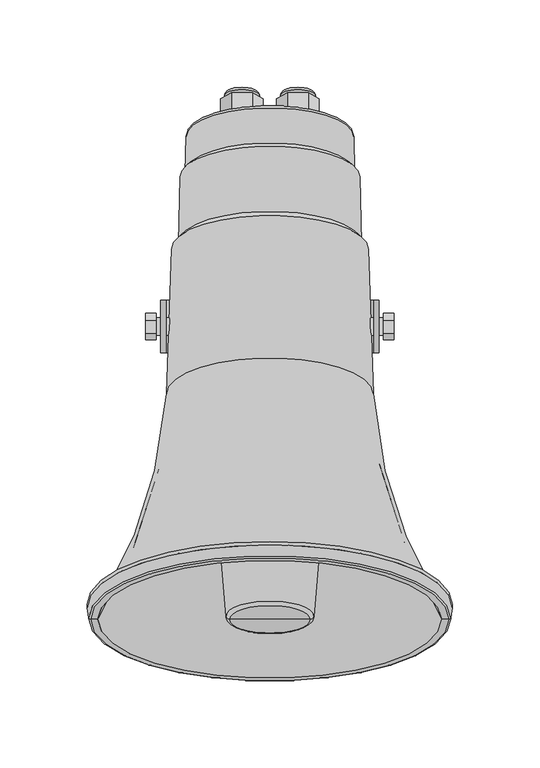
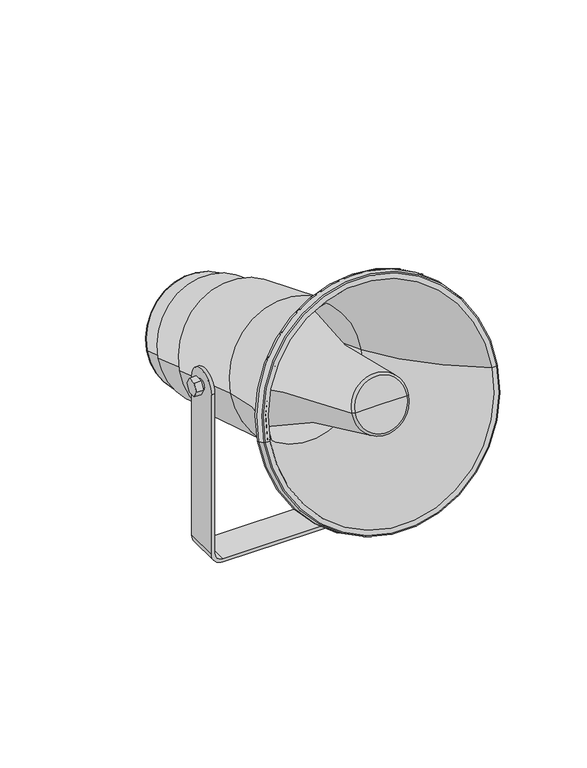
"""IFC4 building model written with IfcOpenShell, lengths in millimetres: proxy geometry, DK 15T-EN54-PG : DK 15/T-EN54-PG."""

from ifc_helpers import new_model, si_unit, point, frame, origin, place, context, project, spatial, polyline, circle_curve, ellipse_curve, trimmed, source, transform, mapped, element, save
from ifc_brep_helpers import plane_surface, cylinder_surface, revolved_surface, advanced_brep


def communication_devices_c37ef485(model_context):
    return source(origin(), model_context, "Body", "AdvancedBrep", [
        advanced_brep(
        [(-22.0879504, 117.4331703, 129.3723922), (-9.9635947, 117.4331703, 129.3723922), (-3.9014169, 113.8419588, 119.5056197), (-9.9635947, 110.2507473, 109.6388471), (-22.0879504, 110.2507473, 109.6388471), (-28.1501282, 113.8419588, 119.5056197), (-25.0257726, 113.8419588, 119.5056197), (-7.0257726, 113.8419588, 119.5056197), (-22.0879504, 114.1442461, 130.5694627), (-28.1501282, 110.5530346, 120.7026902), (-22.0879504, 106.9618231, 110.8359176), (-9.9635947, 106.9618231, 110.8359176), (-3.9014169, 110.5530346, 120.7026902), (-9.9635947, 114.1442461, 130.5694627), (-7.0257726, 120.8896535, 116.9404686), (-25.0257726, 120.8896535, 116.9404686), (-3.9014169, 130.2865797, 113.5202671), (-9.9635947, 126.6953682, 103.6534946), (-22.0879504, 126.6953682, 103.6534946), (-28.1501282, 130.2865797, 113.5202671), (-22.0879504, 133.8777912, 123.3870397), (-9.9635947, 133.8777912, 123.3870397), (-26.0257726, 130.2865797, 113.5202671), (-6.0257726, 130.2865797, 113.5202671), (-3.9014169, 120.8896535, 116.9404686), (-9.9635947, 124.480865, 126.8072411), (-22.0879504, 124.480865, 126.8072411), (-28.1501282, 120.8896535, 116.9404686), (-22.0879504, 117.298442, 107.0736961), (-9.9635947, 117.298442, 107.0736961), (-6.0257726, 132.1659649, 112.8362269), (-26.0257726, 132.1659649, 112.8362269), (-24.0257726, 134.0453502, 112.1521866), (-8.0257726, 134.0453502, 112.1521866), (-16.0257726, 134.0453502, 112.1521866)],
        [
            (0, 1),
            (1, 2),
            (2, 3),
            (3, 4),
            (4, 5),
            (5, 0),
            (6, 7, circle_curve(frame((-16.0257726, 113.8419588, 119.5056197), z_axis=(0.0, -0.9396926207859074, 0.34202014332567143), x_axis=(-1.0, 0.0, 0.0)), 9.0)),
            (7, 6, circle_curve(frame((-16.0257726, 113.8419588, 119.5056197), z_axis=(0.0, -0.9396926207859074, 0.34202014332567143), x_axis=(-1.0, 0.0, 0.0)), 9.0)),
            (8, 9),
            (9, 10),
            (10, 11),
            (11, 12),
            (12, 13),
            (13, 8),
            (0, 8),
            (13, 1),
            (12, 2),
            (11, 3),
            (10, 4),
            (9, 5),
            (14, 7),
            (6, 15),
            (15, 14, circle_curve(frame((-16.0257726, 120.8896535, 116.9404686), z_axis=(0.0, -0.9396926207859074, 0.34202014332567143), x_axis=(-1.0, 0.0, 0.0)), 9.0)),
            (14, 15, circle_curve(frame((-16.0257726, 120.8896535, 116.9404686), z_axis=(0.0, -0.9396926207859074, 0.34202014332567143), x_axis=(-1.0, 0.0, 0.0)), 9.0)),
            (16, 17),
            (17, 18),
            (18, 19),
            (19, 20),
            (20, 21),
            (21, 16),
            (22, 23, circle_curve(frame((-16.0257726, 130.2865797, 113.5202671), z_axis=(0.0, -0.9396926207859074, 0.34202014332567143), x_axis=(-1.0, 0.0, 0.0)), 10.0)),
            (23, 22, circle_curve(frame((-16.0257726, 130.2865797, 113.5202671), z_axis=(0.0, -0.9396926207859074, 0.34202014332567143), x_axis=(-1.0, 0.0, 0.0)), 10.0)),
            (24, 25),
            (25, 26),
            (26, 27),
            (27, 28),
            (28, 29),
            (29, 24),
            (16, 24),
            (29, 17),
            (28, 18),
            (27, 19),
            (26, 20),
            (25, 21),
            (30, 23),
            (22, 31),
            (31, 30, circle_curve(frame((-16.0257726, 132.1659649, 112.8362269), z_axis=(0.0, -0.9396926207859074, 0.34202014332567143), x_axis=(-1.0, 0.0, 0.0)), 10.0)),
            (30, 31, circle_curve(frame((-16.0257726, 132.1659649, 112.8362269), z_axis=(0.0, -0.9396926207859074, 0.34202014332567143), x_axis=(-1.0, 0.0, 0.0)), 10.0)),
            (32, 33, circle_curve(frame((-16.0257726, 134.0453502, 112.1521866), z_axis=(0.0, 0.9396926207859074, -0.34202014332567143), x_axis=(1.0, 0.0, 0.0)), 8.0)),
            (33, 34),
            (34, 32),
            (33, 32, circle_curve(frame((-16.0257726, 134.0453502, 112.1521866), z_axis=(0.0, 0.9396926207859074, -0.34202014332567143), x_axis=(1.0, 0.0, 0.0)), 8.0)),
            (32, 31, circle_curve(frame((-24.0257726, 132.1659649, 112.8362269), z_axis=(0.0, 0.34202014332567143, 0.9396926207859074), x_axis=(1.0, 0.0, 0.0)), 2.0)),
            (30, 33, circle_curve(frame((-8.0257726, 132.1659649, 112.8362269), z_axis=(0.0, 0.34202014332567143, 0.9396926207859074), x_axis=(-1.0, 0.0, 0.0)), 2.0)),
        ],
        [
            plane_surface(frame((-22.0879504, 117.4331703, 129.3723922), z_axis=(0.0, 0.9396926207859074, -0.34202014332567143), x_axis=(1.0, 0.0, 0.0))),
            plane_surface(frame((-22.0879504, 114.1442461, 130.5694627), z_axis=(0.0, -0.9396926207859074, 0.34202014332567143), x_axis=(-1.0, 0.0, 0.0))),
            plane_surface(frame((-22.0879504, 117.4331703, 129.3723922), z_axis=(0.0, 0.34202014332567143, 0.9396926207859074), x_axis=(0.0, -0.9396926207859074, 0.34202014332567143))),
            plane_surface(frame((-9.9635947, 117.4331703, 129.3723922), z_axis=(0.8660254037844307, 0.17101007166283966, 0.4698463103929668), x_axis=(0.0, -0.9396926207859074, 0.34202014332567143))),
            plane_surface(frame((-3.9014169, 113.8419588, 119.5056197), z_axis=(0.8660254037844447, -0.1710100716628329, -0.4698463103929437), x_axis=(0.0, -0.9396926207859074, 0.34202014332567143))),
            plane_surface(frame((-9.9635947, 110.2507473, 109.6388471), z_axis=(0.0, -0.34202014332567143, -0.9396926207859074), x_axis=(0.0, -0.9396926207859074, 0.34202014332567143))),
            plane_surface(frame((-22.0879504, 110.2507473, 109.6388471), z_axis=(-0.8660254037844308, -0.1710100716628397, -0.4698463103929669), x_axis=(0.0, -0.9396926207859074, 0.34202014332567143))),
            plane_surface(frame((-28.1501282, 113.8419588, 119.5056197), z_axis=(-0.8660254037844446, 0.17101007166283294, 0.46984631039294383), x_axis=(0.0, -0.9396926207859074, 0.34202014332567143))),
            cylinder_surface(frame((-16.0257726, 110.5530346, 120.7026902), z_axis=(0.0, 0.9396926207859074, -0.34202014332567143), x_axis=(-1.0, 0.0, 0.0)), 9.0),
            plane_surface(frame((-3.9014169, 130.2865797, 113.5202671), z_axis=(0.0, 0.9396926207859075, -0.34202014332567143), x_axis=(-0.49999999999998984, -0.2961981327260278, -0.8137976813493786))),
            plane_surface(frame((-3.9014169, 120.8896535, 116.9404686), z_axis=(0.0, -0.9396926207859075, 0.34202014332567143), x_axis=(0.49999999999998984, 0.2961981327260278, 0.8137976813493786))),
            plane_surface(frame((-3.9014169, 130.2865797, 113.5202671), z_axis=(0.8660254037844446, -0.17101007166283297, -0.4698463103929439), x_axis=(0.0, -0.9396926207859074, 0.34202014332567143))),
            plane_surface(frame((-9.9635947, 126.6953682, 103.6534946), z_axis=(0.0, -0.34202014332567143, -0.9396926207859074), x_axis=(0.0, -0.9396926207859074, 0.34202014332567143))),
            plane_surface(frame((-22.0879504, 126.6953682, 103.6534946), z_axis=(-0.8660254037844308, -0.17101007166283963, -0.4698463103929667), x_axis=(0.0, -0.9396926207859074, 0.34202014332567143))),
            plane_surface(frame((-28.1501282, 130.2865797, 113.5202671), z_axis=(-0.8660254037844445, 0.1710100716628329, 0.4698463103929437), x_axis=(0.0, -0.9396926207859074, 0.34202014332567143))),
            plane_surface(frame((-22.0879504, 133.8777912, 123.3870397), z_axis=(0.0, 0.34202014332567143, 0.9396926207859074), x_axis=(0.0, -0.9396926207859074, 0.34202014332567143))),
            plane_surface(frame((-9.9635947, 133.8777912, 123.3870397), z_axis=(0.8660254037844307, 0.1710100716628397, 0.4698463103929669), x_axis=(0.0, -0.9396926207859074, 0.34202014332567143))),
            cylinder_surface(frame((-16.0257726, 120.8896535, 116.9404686), z_axis=(0.0, 0.9396926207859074, -0.34202014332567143), x_axis=(-1.0, 0.0, 0.0)), 10.0),
            plane_surface(frame((-16.0257726, 134.0453502, 112.1521866), z_axis=(0.0, 0.9396926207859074, -0.34202014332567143), x_axis=(1.0, 0.0, 0.0))),
            revolved_surface(trimmed(ellipse_curve(frame((-8.0257726, 132.1659649, 112.8362269), z_axis=(0.0, -0.34202014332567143, -0.9396926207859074), x_axis=(-1.0, 0.0, 0.0)), 2.0, 2.0), [point((-8.0257726, 134.0453502, 112.1521866))], [point((-6.0257726, 132.1659649, 112.8362269))], True, "CARTESIAN"), (-16.0257726, 2187.9456097, -635.406372), (0.0, -0.9396926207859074, 0.34202014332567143)),
        ],
        [
            (0, [[1, 2, 3, 4, 5, 6], [7, 8]]),
            (1, [[9, 10, 11, 12, 13, 14]]),
            (2, [[-1, 15, -14, 16]]),
            (3, [[-2, -16, -13, 17]]),
            (4, [[-3, -17, -12, 18]]),
            (5, [[-4, -18, -11, 19]]),
            (6, [[-5, -19, -10, 20]]),
            (7, [[-6, -20, -9, -15]]),
            (8, [[21, -7, 22, 23]]),
            (8, [[-21, 24, -22, -8]]),
            (9, [[25, 26, 27, 28, 29, 30], [31, 32]]),
            (10, [[33, 34, 35, 36, 37, 38], [-23, -24]]),
            (11, [[-25, 39, -38, 40]]),
            (12, [[-26, -40, -37, 41]]),
            (13, [[-27, -41, -36, 42]]),
            (14, [[-28, -42, -35, 43]]),
            (15, [[-29, -43, -34, 44]]),
            (16, [[-30, -44, -33, -39]]),
            (17, [[45, -31, 46, 47]]),
            (17, [[-45, 48, -46, -32]]),
            (18, [[49, 50, 51]]),
            (18, [[-50, 52, -51]]),
            (19, [[-49, 53, -48, 54]]),
            (19, [[-52, -54, -47, -53]]),
        ],
    ),
        advanced_brep(
        [(9.9635947, 117.4331703, 129.3723922), (22.0879504, 117.4331703, 129.3723922), (28.1501282, 113.8419588, 119.5056197), (22.0879504, 110.2507473, 109.6388471), (9.9635947, 110.2507473, 109.6388471), (3.9014169, 113.8419588, 119.5056197), (7.0257726, 113.8419588, 119.5056197), (25.0257726, 113.8419588, 119.5056197), (9.9635947, 114.1442461, 130.5694627), (3.9014169, 110.5530346, 120.7026902), (9.9635947, 106.9618231, 110.8359176), (22.0879504, 106.9618231, 110.8359176), (28.1501282, 110.5530346, 120.7026902), (22.0879504, 114.1442461, 130.5694627), (25.0257726, 120.8896535, 116.9404686), (7.0257726, 120.8896535, 116.9404686), (28.1501282, 130.2865797, 113.5202671), (22.0879504, 126.6953682, 103.6534946), (9.9635947, 126.6953682, 103.6534946), (3.9014169, 130.2865797, 113.5202671), (9.9635947, 133.8777912, 123.3870397), (22.0879504, 133.8777912, 123.3870397), (6.0257726, 130.2865797, 113.5202671), (26.0257726, 130.2865797, 113.5202671), (28.1501282, 120.8896535, 116.9404686), (22.0879504, 124.480865, 126.8072411), (9.9635947, 124.480865, 126.8072411), (3.9014169, 120.8896535, 116.9404686), (9.9635947, 117.298442, 107.0736961), (22.0879504, 117.298442, 107.0736961), (26.0257726, 132.1659649, 112.8362269), (6.0257726, 132.1659649, 112.8362269), (8.0257726, 134.0453502, 112.1521866), (24.0257726, 134.0453502, 112.1521866), (16.0257726, 134.0453502, 112.1521866)],
        [
            (0, 1),
            (1, 2),
            (2, 3),
            (3, 4),
            (4, 5),
            (5, 0),
            (6, 7, circle_curve(frame((16.0257726, 113.8419588, 119.5056197), z_axis=(0.0, -0.9396926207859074, 0.34202014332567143), x_axis=(-1.0, 0.0, 0.0)), 9.0)),
            (7, 6, circle_curve(frame((16.0257726, 113.8419588, 119.5056197), z_axis=(0.0, -0.9396926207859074, 0.34202014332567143), x_axis=(-1.0, 0.0, 0.0)), 9.0)),
            (8, 9),
            (9, 10),
            (10, 11),
            (11, 12),
            (12, 13),
            (13, 8),
            (0, 8),
            (13, 1),
            (12, 2),
            (11, 3),
            (10, 4),
            (9, 5),
            (14, 7),
            (6, 15),
            (15, 14, circle_curve(frame((16.0257726, 120.8896535, 116.9404686), z_axis=(0.0, -0.9396926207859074, 0.34202014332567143), x_axis=(-1.0, 0.0, 0.0)), 9.0)),
            (14, 15, circle_curve(frame((16.0257726, 120.8896535, 116.9404686), z_axis=(0.0, -0.9396926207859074, 0.34202014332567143), x_axis=(-1.0, 0.0, 0.0)), 9.0)),
            (16, 17),
            (17, 18),
            (18, 19),
            (19, 20),
            (20, 21),
            (21, 16),
            (22, 23, circle_curve(frame((16.0257726, 130.2865797, 113.5202671), z_axis=(0.0, -0.9396926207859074, 0.34202014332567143), x_axis=(-1.0, 0.0, 0.0)), 10.0)),
            (23, 22, circle_curve(frame((16.0257726, 130.2865797, 113.5202671), z_axis=(0.0, -0.9396926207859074, 0.34202014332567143), x_axis=(-1.0, 0.0, 0.0)), 10.0)),
            (24, 25),
            (25, 26),
            (26, 27),
            (27, 28),
            (28, 29),
            (29, 24),
            (16, 24),
            (29, 17),
            (28, 18),
            (27, 19),
            (26, 20),
            (25, 21),
            (30, 23),
            (22, 31),
            (31, 30, circle_curve(frame((16.0257726, 132.1659649, 112.8362269), z_axis=(0.0, -0.9396926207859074, 0.34202014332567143), x_axis=(-1.0, 0.0, 0.0)), 10.0)),
            (30, 31, circle_curve(frame((16.0257726, 132.1659649, 112.8362269), z_axis=(0.0, -0.9396926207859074, 0.34202014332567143), x_axis=(-1.0, 0.0, 0.0)), 10.0)),
            (32, 33, circle_curve(frame((16.0257726, 134.0453502, 112.1521866), z_axis=(0.0, 0.9396926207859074, -0.34202014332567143), x_axis=(1.0, 0.0, 0.0)), 8.0)),
            (33, 34),
            (34, 32),
            (33, 32, circle_curve(frame((16.0257726, 134.0453502, 112.1521866), z_axis=(0.0, 0.9396926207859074, -0.34202014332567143), x_axis=(1.0, 0.0, 0.0)), 8.0)),
            (32, 31, circle_curve(frame((8.0257726, 132.1659649, 112.8362269), z_axis=(0.0, 0.34202014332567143, 0.9396926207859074), x_axis=(1.0, 0.0, 0.0)), 2.0)),
            (30, 33, circle_curve(frame((24.0257726, 132.1659649, 112.8362269), z_axis=(0.0, 0.34202014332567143, 0.9396926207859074), x_axis=(-1.0, 0.0, 0.0)), 2.0)),
        ],
        [
            plane_surface(frame((9.9635947, 117.4331703, 129.3723922), z_axis=(0.0, 0.9396926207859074, -0.34202014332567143), x_axis=(1.0, 0.0, 0.0))),
            plane_surface(frame((9.9635947, 114.1442461, 130.5694627), z_axis=(0.0, -0.9396926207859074, 0.34202014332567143), x_axis=(-1.0, 0.0, 0.0))),
            plane_surface(frame((9.9635947, 117.4331703, 129.3723922), z_axis=(0.0, 0.34202014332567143, 0.9396926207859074), x_axis=(0.0, -0.9396926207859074, 0.34202014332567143))),
            plane_surface(frame((22.0879504, 117.4331703, 129.3723922), z_axis=(0.8660254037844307, 0.17101007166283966, 0.4698463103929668), x_axis=(0.0, -0.9396926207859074, 0.34202014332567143))),
            plane_surface(frame((28.1501282, 113.8419588, 119.5056197), z_axis=(0.8660254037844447, -0.1710100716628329, -0.4698463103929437), x_axis=(0.0, -0.9396926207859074, 0.34202014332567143))),
            plane_surface(frame((22.0879504, 110.2507473, 109.6388471), z_axis=(0.0, -0.34202014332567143, -0.9396926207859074), x_axis=(0.0, -0.9396926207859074, 0.34202014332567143))),
            plane_surface(frame((9.9635947, 110.2507473, 109.6388471), z_axis=(-0.8660254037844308, -0.1710100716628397, -0.4698463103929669), x_axis=(0.0, -0.9396926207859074, 0.34202014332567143))),
            plane_surface(frame((3.9014169, 113.8419588, 119.5056197), z_axis=(-0.8660254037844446, 0.17101007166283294, 0.46984631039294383), x_axis=(0.0, -0.9396926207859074, 0.34202014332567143))),
            cylinder_surface(frame((16.0257726, 110.5530346, 120.7026902), z_axis=(0.0, 0.9396926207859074, -0.34202014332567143), x_axis=(-1.0, 0.0, 0.0)), 9.0),
            plane_surface(frame((28.1501282, 130.2865797, 113.5202671), z_axis=(0.0, 0.9396926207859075, -0.34202014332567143), x_axis=(-0.49999999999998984, -0.2961981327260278, -0.8137976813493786))),
            plane_surface(frame((28.1501282, 120.8896535, 116.9404686), z_axis=(0.0, -0.9396926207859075, 0.34202014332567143), x_axis=(0.49999999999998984, 0.2961981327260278, 0.8137976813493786))),
            plane_surface(frame((28.1501282, 130.2865797, 113.5202671), z_axis=(0.8660254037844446, -0.17101007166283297, -0.4698463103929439), x_axis=(0.0, -0.9396926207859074, 0.34202014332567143))),
            plane_surface(frame((22.0879504, 126.6953682, 103.6534946), z_axis=(0.0, -0.34202014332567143, -0.9396926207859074), x_axis=(0.0, -0.9396926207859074, 0.34202014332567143))),
            plane_surface(frame((9.9635947, 126.6953682, 103.6534946), z_axis=(-0.8660254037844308, -0.17101007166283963, -0.4698463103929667), x_axis=(0.0, -0.9396926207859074, 0.34202014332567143))),
            plane_surface(frame((3.9014169, 130.2865797, 113.5202671), z_axis=(-0.8660254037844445, 0.1710100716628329, 0.4698463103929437), x_axis=(0.0, -0.9396926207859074, 0.34202014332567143))),
            plane_surface(frame((9.9635947, 133.8777912, 123.3870397), z_axis=(0.0, 0.34202014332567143, 0.9396926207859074), x_axis=(0.0, -0.9396926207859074, 0.34202014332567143))),
            plane_surface(frame((22.0879504, 133.8777912, 123.3870397), z_axis=(0.8660254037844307, 0.1710100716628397, 0.4698463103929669), x_axis=(0.0, -0.9396926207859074, 0.34202014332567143))),
            cylinder_surface(frame((16.0257726, 120.8896535, 116.9404686), z_axis=(0.0, 0.9396926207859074, -0.34202014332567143), x_axis=(-1.0, 0.0, 0.0)), 10.0),
            plane_surface(frame((16.0257726, 134.0453502, 112.1521866), z_axis=(0.0, 0.9396926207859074, -0.34202014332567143), x_axis=(1.0, 0.0, 0.0))),
            revolved_surface(trimmed(ellipse_curve(frame((24.0257726, 132.1659649, 112.8362269), z_axis=(0.0, -0.34202014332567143, -0.9396926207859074), x_axis=(-1.0, 0.0, 0.0)), 2.0, 2.0), [point((24.0257726, 134.0453502, 112.1521866))], [point((26.0257726, 132.1659649, 112.8362269))], True, "CARTESIAN"), (16.0257726, 2187.9456097, -635.406372), (0.0, -0.9396926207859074, 0.34202014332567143)),
        ],
        [
            (0, [[1, 2, 3, 4, 5, 6], [7, 8]]),
            (1, [[9, 10, 11, 12, 13, 14]]),
            (2, [[-1, 15, -14, 16]]),
            (3, [[-2, -16, -13, 17]]),
            (4, [[-3, -17, -12, 18]]),
            (5, [[-4, -18, -11, 19]]),
            (6, [[-5, -19, -10, 20]]),
            (7, [[-6, -20, -9, -15]]),
            (8, [[21, -7, 22, 23]]),
            (8, [[-21, 24, -22, -8]]),
            (9, [[25, 26, 27, 28, 29, 30], [31, 32]]),
            (10, [[33, 34, 35, 36, 37, 38], [-23, -24]]),
            (11, [[-25, 39, -38, 40]]),
            (12, [[-26, -40, -37, 41]]),
            (13, [[-27, -41, -36, 42]]),
            (14, [[-28, -42, -35, 43]]),
            (15, [[-29, -43, -34, 44]]),
            (16, [[-30, -44, -33, -39]]),
            (17, [[45, -31, 46, 47]]),
            (17, [[-45, 48, -46, -32]]),
            (18, [[49, 50, 51]]),
            (18, [[-50, 52, -51]]),
            (19, [[-49, 53, -48, 54]]),
            (19, [[-52, -54, -47, -53]]),
        ],
    ),
        advanced_brep(
        [(-62.5, -15.0, 10.5), (-52.0, -15.0, 0.0), (52.0, -15.0, 0.0), (62.5, -15.0, 10.5), (62.5, -15.0, 159.9544424), (59.5, -15.0, 159.9544424), (59.5, -15.0, 10.5), (52.0, -15.0, 3.0), (-52.0, -15.0, 3.0), (-59.5, -15.0, 10.5), (-59.5, -15.0, 159.9544424), (-62.5, -15.0, 159.9544424), (-59.5, 15.0, 10.5), (-52.0, 15.0, 3.0), (52.0, 15.0, 3.0), (59.5, 15.0, 10.5), (59.5, 15.0, 159.9544424), (62.5, 15.0, 159.9544424), (62.5, 15.0, 10.5), (52.0, 15.0, 0.0), (-52.0, 15.0, 0.0), (-62.5, 15.0, 10.5), (-62.5, 15.0, 159.9544424), (-59.5, 15.0, 159.9544424), (62.5, 0.0, 174.9544424), (59.5, 0.0, 174.9544424), (-59.5, 0.0, 174.9544424), (-62.5, 0.0, 174.9544424)],
        [
            (0, 1, circle_curve(frame((-52.0, -15.0, 10.5), z_axis=(0.0, -1.0, 0.0), x_axis=(0.0, 0.0, 1.0)), 10.5)),
            (1, 2),
            (2, 3, circle_curve(frame((52.0, -15.0, 10.5), z_axis=(0.0, -1.0, 0.0), x_axis=(0.0, 0.0, 1.0)), 10.5)),
            (3, 4),
            (4, 5),
            (5, 6),
            (6, 7, circle_curve(frame((52.0, -15.0, 10.5), z_axis=(0.0, 1.0, 0.0), x_axis=(0.0, 0.0, 1.0)), 7.5)),
            (7, 8),
            (8, 9, circle_curve(frame((-52.0, -15.0, 10.5), z_axis=(0.0, 1.0, 0.0), x_axis=(0.0, 0.0, 1.0)), 7.5)),
            (9, 10),
            (10, 11),
            (11, 0),
            (12, 13, circle_curve(frame((-52.0, 15.0, 10.5), z_axis=(0.0, -1.0, 0.0), x_axis=(0.0, 0.0, 1.0)), 7.5)),
            (13, 14),
            (14, 15, circle_curve(frame((52.0, 15.0, 10.5), z_axis=(0.0, -1.0, 0.0), x_axis=(0.0, 0.0, 1.0)), 7.5)),
            (15, 16),
            (16, 17),
            (17, 18),
            (18, 19, circle_curve(frame((52.0, 15.0, 10.5), z_axis=(0.0, 1.0, 0.0), x_axis=(0.0, 0.0, 1.0)), 10.5)),
            (19, 20),
            (20, 21, circle_curve(frame((-52.0, 15.0, 10.5), z_axis=(0.0, 1.0, 0.0), x_axis=(0.0, 0.0, 1.0)), 10.5)),
            (21, 22),
            (22, 23),
            (23, 12),
            (0, 21),
            (20, 1),
            (19, 2),
            (18, 3),
            (17, 24, circle_curve(frame((62.5, 0.0, 159.9544424), z_axis=(1.0, 0.0, 0.0), x_axis=(0.0, 1.0, 0.0)), 15.0)),
            (24, 4, circle_curve(frame((62.5, 0.0, 159.9544424), z_axis=(1.0, 0.0, 0.0), x_axis=(0.0, 1.0, 0.0)), 15.0)),
            (15, 6),
            (5, 25, circle_curve(frame((59.5, 0.0, 159.9544424), z_axis=(-1.0, 0.0, 0.0), x_axis=(0.0, 1.0, 0.0)), 15.0)),
            (25, 16, circle_curve(frame((59.5, 0.0, 159.9544424), z_axis=(-1.0, 0.0, 0.0), x_axis=(0.0, 1.0, 0.0)), 15.0)),
            (14, 7),
            (13, 8),
            (12, 9),
            (23, 26, circle_curve(frame((-59.5, 0.0, 159.9544424), z_axis=(1.0, 0.0, 0.0), x_axis=(0.0, 1.0, 0.0)), 15.0)),
            (26, 10, circle_curve(frame((-59.5, 0.0, 159.9544424), z_axis=(1.0, 0.0, 0.0), x_axis=(0.0, 1.0, 0.0)), 15.0)),
            (11, 27, circle_curve(frame((-62.5, 0.0, 159.9544424), z_axis=(-1.0, 0.0, 0.0), x_axis=(0.0, 1.0, 0.0)), 15.0)),
            (27, 22, circle_curve(frame((-62.5, 0.0, 159.9544424), z_axis=(-1.0, 0.0, 0.0), x_axis=(0.0, 1.0, 0.0)), 15.0)),
        ],
        [
            plane_surface(frame((-52.0, -15.0, 21.0), z_axis=(0.0, -1.0, 0.0), x_axis=(-1.0, 0.0, 0.0))),
            plane_surface(frame((-52.0, 15.0, 21.0), z_axis=(0.0, 1.0, 0.0), x_axis=(1.0, 0.0, 0.0))),
            cylinder_surface(frame((-52.0, 15.0, 10.5), z_axis=(0.0, -1.0, 0.0), x_axis=(0.0, 0.0, 1.0)), 10.5),
            plane_surface(frame((-52.0, -15.0, 0.0), z_axis=(0.0, 0.0, -1.0), x_axis=(0.0, 1.0, 0.0))),
            cylinder_surface(frame((52.0, 15.0, 10.5), z_axis=(0.0, -1.0, 0.0), x_axis=(0.0, 0.0, 1.0)), 10.5),
            plane_surface(frame((62.5, -15.0, 10.5), z_axis=(1.0, 0.0, 0.0), x_axis=(0.0, 1.0, 0.0))),
            plane_surface(frame((59.5, -15.0, 174.9544424), z_axis=(-1.0, 0.0, 0.0), x_axis=(0.0, 1.0, 0.0))),
            revolved_surface(polyline([(52.0, 15.0, 18.0), (52.0, -15.0, 18.0)]), (52.0, 15.0, 10.5), (0.0, 1.0, 0.0)),
            plane_surface(frame((52.0, -15.0, 3.0), z_axis=(0.0, 0.0, 1.0), x_axis=(0.0, 1.0, 0.0))),
            revolved_surface(polyline([(-52.0, 15.0, 18.0), (-52.0, -15.0, 18.0)]), (-52.0, 15.0, 10.5), (0.0, 1.0, 0.0)),
            plane_surface(frame((-59.5, -15.0, 10.5), z_axis=(1.0, 0.0, 0.0), x_axis=(0.0, 1.0, 0.0))),
            plane_surface(frame((-62.5, -15.0, 174.9544424), z_axis=(-1.0, 0.0, 0.0), x_axis=(0.0, 1.0, 0.0))),
            cylinder_surface(frame((-90.0, 0.0, 159.9544424), z_axis=(-1.0, 0.0, 0.0), x_axis=(0.0, 1.0, 0.0)), 15.0),
        ],
        [
            (0, [[1, 2, 3, 4, 5, 6, 7, 8, 9, 10, 11, 12]]),
            (1, [[13, 14, 15, 16, 17, 18, 19, 20, 21, 22, 23, 24]]),
            (2, [[-1, 25, -21, 26]]),
            (3, [[-2, -26, -20, 27]]),
            (4, [[-3, -27, -19, 28]]),
            (5, [[-28, -18, 29, 30, -4]]),
            (6, [[31, -6, 32, 33, -16]]),
            (7, [[-7, -31, -15, 34]]),
            (8, [[-8, -34, -14, 35]]),
            (9, [[-9, -35, -13, 36]]),
            (10, [[-36, -24, 37, 38, -10]]),
            (11, [[-25, -12, 39, 40, -22]]),
            (12, [[-5, -30, -29, -17, -33, -32]]),
            (12, [[-11, -38, -37, -23, -40, -39]]),
        ],
    ),
        advanced_brep(
        [(59.1795336, -38.3559546, 174.9011298), (-59.1795336, -38.3559546, 174.9011298), (-56.4200611, 44.2881689, 144.8211289), (56.4200611, 44.2881689, 144.8211289), (99.6768224, -165.7165959, 221.2566123), (-99.6768224, -165.7165959, 221.2566123), (101.8860785, -165.7165959, 221.2566123), (-101.8860785, -165.7165959, 221.2566123), (102.5966569, -160.672511, 219.4207156), (-102.5966569, -160.672511, 219.4207156), (102.5966569, -158.9075831, 218.7783343), (-102.5966569, -158.9075831, 218.7783343), (104.5966569, -158.9075831, 218.7783343), (-104.5966569, -158.9075831, 218.7783343), (104.5966569, -160.7963653, 219.4657948), (-104.5966569, -160.7963653, 219.4657948), (103.753776, -166.7796072, 221.6435168), (-103.753776, -166.7796072, 221.6435168), (102.7624245, -167.5959811, 221.9406526), (-102.7624245, -167.5959811, 221.9406526), (98.5091569, -167.5959811, 221.9406526), (-98.5091569, -167.5959811, 221.9406526), (57.1816839, -38.4498299, 174.9352977), (-57.1816839, -38.4498299, 174.9352977), (55.3606727, 16.0880847, 155.0851201), (-55.3606727, 16.0880847, 155.0851201), (25.2067567, -165.7223734, 221.2587151), (-25.2067567, -165.7223734, 221.2587151), (23.2067662, -167.5959811, 221.9406526), (-23.2067662, -167.5959811, 221.9406526), (0.0, -167.5959811, 221.9406526), (46.0440231, 110.5530346, 120.7026902), (-46.0440231, 110.5530346, 120.7026902), (0.0, 110.5530346, 120.7026902), (48.0436024, 108.7121946, 121.3727011), (-48.0436024, 108.7121946, 121.3727011), (48.4857367, 88.4589668, 128.7442732), (-48.4857367, 88.4589668, 128.7442732), (51.5262814, 85.6613541, 129.762521), (-51.5262814, 85.6613541, 129.762521), (52.3233729, 48.0469393, 143.4530483), (-52.3233729, 48.0469393, 143.4530483)],
        [
            (0, 1, circle_curve(frame((0.0, -38.3559546, 174.9011298), z_axis=(0.0, 0.9396926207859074, -0.34202014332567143), x_axis=(-1.0, 0.0, 0.0)), 59.1795336)),
            (1, 2),
            (2, 3, circle_curve(frame((0.0, 44.2881689, 144.8211289), z_axis=(0.0, -0.9396926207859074, 0.34202014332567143), x_axis=(-1.0, 0.0, 0.0)), 56.4200611)),
            (3, 0),
            (1, 0, circle_curve(frame((0.0, -38.3559546, 174.9011298), z_axis=(0.0, 0.9396926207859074, -0.34202014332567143), x_axis=(-1.0, 0.0, 0.0)), 59.1795336)),
            (3, 2, circle_curve(frame((0.0, 44.2881689, 144.8211289), z_axis=(0.0, -0.9396926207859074, 0.34202014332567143), x_axis=(-1.0, 0.0, 0.0)), 56.4200611)),
            (4, 5, circle_curve(frame((0.0, -165.7165959, 221.2566123), z_axis=(0.0, 0.9396926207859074, -0.34202014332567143), x_axis=(-1.0, 0.0, 0.0)), 99.6768224)),
            (5, 1, circle_curve(frame((-380.0227562, -17.6360728, 167.3597096), z_axis=(0.0, 0.3420201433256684, 0.9396926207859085), x_axis=(0.0, -0.9396926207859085, 0.3420201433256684)), 321.6)),
            (0, 4, circle_curve(frame((380.0227562, -17.6360728, 167.3597096), z_axis=(0.0, 0.3420201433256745, 0.9396926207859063), x_axis=(0.0, -0.9396926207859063, 0.3420201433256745)), 321.6)),
            (5, 4, circle_curve(frame((0.0, -165.7165959, 221.2566123), z_axis=(0.0, 0.9396926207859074, -0.34202014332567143), x_axis=(-1.0, 0.0, 0.0)), 99.6768224)),
            (6, 7, circle_curve(frame((0.0, -165.7165959, 221.2566123), z_axis=(0.0, 0.9396926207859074, -0.34202014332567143), x_axis=(-1.0, 0.0, 0.0)), 101.8860785)),
            (7, 5),
            (4, 6),
            (7, 6, circle_curve(frame((0.0, -165.7165959, 221.2566123), z_axis=(0.0, 0.9396926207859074, -0.34202014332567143), x_axis=(-1.0, 0.0, 0.0)), 101.8860785)),
            (8, 9, circle_curve(frame((0.0, -160.672511, 219.4207156), z_axis=(0.0, 0.9396926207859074, -0.34202014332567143), x_axis=(-1.0, 0.0, 0.0)), 102.5966569)),
            (9, 7),
            (6, 8),
            (9, 8, circle_curve(frame((0.0, -160.672511, 219.4207156), z_axis=(0.0, 0.9396926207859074, -0.34202014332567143), x_axis=(-1.0, 0.0, 0.0)), 102.5966569)),
            (10, 11, circle_curve(frame((0.0, -158.9075831, 218.7783343), z_axis=(0.0, 0.9396926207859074, -0.34202014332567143), x_axis=(-1.0, 0.0, 0.0)), 102.5966569)),
            (11, 9),
            (8, 10),
            (11, 10, circle_curve(frame((0.0, -158.9075831, 218.7783343), z_axis=(0.0, 0.9396926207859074, -0.34202014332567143), x_axis=(-1.0, 0.0, 0.0)), 102.5966569)),
            (12, 13, circle_curve(frame((0.0, -158.9075831, 218.7783343), z_axis=(0.0, 0.9396926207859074, -0.34202014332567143), x_axis=(-1.0, 0.0, 0.0)), 104.5966569)),
            (13, 11),
            (10, 12),
            (13, 12, circle_curve(frame((0.0, -158.9075831, 218.7783343), z_axis=(0.0, 0.9396926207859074, -0.34202014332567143), x_axis=(-1.0, 0.0, 0.0)), 104.5966569)),
            (14, 15, circle_curve(frame((0.0, -160.7963653, 219.4657948), z_axis=(0.0, 0.9396926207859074, -0.34202014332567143), x_axis=(-1.0, 0.0, 0.0)), 104.5966569)),
            (15, 13),
            (12, 14),
            (15, 14, circle_curve(frame((0.0, -160.7963653, 219.4657948), z_axis=(0.0, 0.9396926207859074, -0.34202014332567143), x_axis=(-1.0, 0.0, 0.0)), 104.5966569)),
            (16, 17, circle_curve(frame((0.0, -166.7796072, 221.6435168), z_axis=(0.0, 0.9396926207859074, -0.34202014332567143), x_axis=(-1.0, 0.0, 0.0)), 103.753776)),
            (17, 15),
            (14, 16),
            (17, 16, circle_curve(frame((0.0, -166.7796072, 221.6435168), z_axis=(0.0, 0.9396926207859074, -0.34202014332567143), x_axis=(-1.0, 0.0, 0.0)), 103.753776)),
            (18, 19, circle_curve(frame((0.0, -167.5959811, 221.9406526), z_axis=(0.0, 0.9396926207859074, -0.34202014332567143), x_axis=(-1.0, 0.0, 0.0)), 102.7624245)),
            (19, 17, circle_curve(frame((-102.7624245, -166.6562885, 221.5986324), z_axis=(0.0, -0.34202014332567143, -0.9396926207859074), x_axis=(1.0, 0.0, 0.0)), 1.0)),
            (16, 18, circle_curve(frame((102.7624245, -166.6562885, 221.5986324), z_axis=(0.0, -0.34202014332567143, -0.9396926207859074), x_axis=(-1.0, 0.0, 0.0)), 1.0)),
            (19, 18, circle_curve(frame((0.0, -167.5959811, 221.9406526), z_axis=(0.0, 0.9396926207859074, -0.34202014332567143), x_axis=(-1.0, 0.0, 0.0)), 102.7624245)),
            (20, 21, circle_curve(frame((0.0, -167.5959811, 221.9406526), z_axis=(0.0, 0.9396926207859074, -0.34202014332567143), x_axis=(-1.0, 0.0, 0.0)), 98.5091569)),
            (21, 19),
            (18, 20),
            (21, 20, circle_curve(frame((0.0, -167.5959811, 221.9406526), z_axis=(0.0, 0.9396926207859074, -0.34202014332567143), x_axis=(-1.0, 0.0, 0.0)), 98.5091569)),
            (22, 23, circle_curve(frame((0.0, -38.4498299, 174.9352977), z_axis=(0.0, 0.9396926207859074, -0.34202014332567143), x_axis=(-1.0, 0.0, 0.0)), 57.1816839)),
            (23, 21, circle_curve(frame((-380.0227562, -17.6360728, 167.3597096), z_axis=(0.0, -0.3420201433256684, -0.9396926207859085), x_axis=(0.0, -0.9396926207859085, 0.3420201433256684)), 323.6)),
            (20, 22, circle_curve(frame((380.0227562, -17.6360728, 167.3597096), z_axis=(0.0, -0.3420201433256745, -0.9396926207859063), x_axis=(0.0, -0.9396926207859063, 0.3420201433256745)), 323.6)),
            (23, 22, circle_curve(frame((0.0, -38.4498299, 174.9352977), z_axis=(0.0, 0.9396926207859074, -0.34202014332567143), x_axis=(-1.0, 0.0, 0.0)), 57.1816839)),
            (24, 25, circle_curve(frame((0.0, 16.0880847, 155.0851201), z_axis=(0.0, 0.9396926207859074, -0.34202014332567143), x_axis=(-1.0, 0.0, 0.0)), 55.3606727)),
            (25, 23),
            (22, 24),
            (25, 24, circle_curve(frame((0.0, 16.0880847, 155.0851201), z_axis=(0.0, 0.9396926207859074, -0.34202014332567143), x_axis=(-1.0, 0.0, 0.0)), 55.3606727)),
            (26, 27, circle_curve(frame((0.0, -165.7223734, 221.2587151), z_axis=(0.0, 0.9396926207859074, -0.34202014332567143), x_axis=(-1.0, 0.0, 0.0)), 25.2067567)),
            (27, 25, circle_curve(frame((-673.792193, -167.5959811, 221.9406526), z_axis=(0.0, 0.34202014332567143, 0.9396926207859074), x_axis=(1.0, 0.0, 0.0)), 648.588501)),
            (24, 26, circle_curve(frame((673.792193, -167.5959811, 221.9406526), z_axis=(0.0, 0.34202014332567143, 0.9396926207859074), x_axis=(-1.0, 0.0, 0.0)), 648.588501)),
            (27, 26, circle_curve(frame((0.0, -165.7223734, 221.2587151), z_axis=(0.0, 0.9396926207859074, -0.34202014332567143), x_axis=(-1.0, 0.0, 0.0)), 25.2067567)),
            (28, 29, circle_curve(frame((0.0, -167.5959811, 221.9406526), z_axis=(0.0, 0.9396926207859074, -0.34202014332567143), x_axis=(-1.0, 0.0, 0.0)), 23.2067662)),
            (29, 27, circle_curve(frame((-23.2067662, -165.7165959, 221.2566123), z_axis=(0.0, -0.34202014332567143, -0.9396926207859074), x_axis=(1.0, 0.0, 0.0)), 2.0)),
            (26, 28, circle_curve(frame((23.2067662, -165.7165959, 221.2566123), z_axis=(0.0, -0.34202014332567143, -0.9396926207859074), x_axis=(-1.0, 0.0, 0.0)), 2.0)),
            (29, 28, circle_curve(frame((0.0, -167.5959811, 221.9406526), z_axis=(0.0, 0.9396926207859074, -0.34202014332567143), x_axis=(-1.0, 0.0, 0.0)), 23.2067662)),
            (30, 29),
            (28, 30),
            (31, 32, circle_curve(frame((0.0, 110.5530346, 120.7026902), z_axis=(0.0, 0.9396926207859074, -0.34202014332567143), x_axis=(-1.0, 0.0, 0.0)), 46.0440231)),
            (32, 33),
            (33, 31),
            (32, 31, circle_curve(frame((0.0, 110.5530346, 120.7026902), z_axis=(0.0, 0.9396926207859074, -0.34202014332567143), x_axis=(-1.0, 0.0, 0.0)), 46.0440231)),
            (34, 35, circle_curve(frame((0.0, 108.7121946, 121.3727011), z_axis=(0.0, 0.9396926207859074, -0.34202014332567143), x_axis=(-1.0, 0.0, 0.0)), 48.0436024)),
            (35, 32, circle_curve(frame((-46.0440231, 108.6736494, 121.3867304), z_axis=(0.0, -0.34202014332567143, -0.9396926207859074), x_axis=(1.0, 0.0, 0.0)), 2.0)),
            (31, 34, circle_curve(frame((46.0440231, 108.6736494, 121.3867304), z_axis=(0.0, -0.34202014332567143, -0.9396926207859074), x_axis=(-1.0, 0.0, 0.0)), 2.0)),
            (35, 34, circle_curve(frame((0.0, 108.7121946, 121.3727011), z_axis=(0.0, 0.9396926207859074, -0.34202014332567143), x_axis=(-1.0, 0.0, 0.0)), 48.0436024)),
            (36, 37, circle_curve(frame((0.0, 88.4589668, 128.7442732), z_axis=(0.0, 0.9396926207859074, -0.34202014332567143), x_axis=(-1.0, 0.0, 0.0)), 48.4857367)),
            (37, 35),
            (34, 36),
            (37, 36, circle_curve(frame((0.0, 88.4589668, 128.7442732), z_axis=(0.0, 0.9396926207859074, -0.34202014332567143), x_axis=(-1.0, 0.0, 0.0)), 48.4857367)),
            (38, 39, circle_curve(frame((0.0, 85.6613541, 129.762521), z_axis=(0.0, 0.9396926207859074, -0.34202014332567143), x_axis=(-1.0, 0.0, 0.0)), 51.5262814)),
            (39, 37),
            (36, 38),
            (39, 38, circle_curve(frame((0.0, 85.6613541, 129.762521), z_axis=(0.0, 0.9396926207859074, -0.34202014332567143), x_axis=(-1.0, 0.0, 0.0)), 51.5262814)),
            (40, 41, circle_curve(frame((0.0, 48.0469393, 143.4530483), z_axis=(0.0, 0.9396926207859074, -0.34202014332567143), x_axis=(-1.0, 0.0, 0.0)), 52.3233729)),
            (41, 39),
            (38, 40),
            (41, 40, circle_curve(frame((0.0, 48.0469393, 143.4530483), z_axis=(0.0, 0.9396926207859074, -0.34202014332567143), x_axis=(-1.0, 0.0, 0.0)), 52.3233729)),
            (2, 41),
            (40, 3),
        ],
        [
            revolved_surface(polyline([(-56.4200611, 44.2881689, 144.8211289), (-59.1795336, -38.3559546, 174.9011298)]), (0.0, 1879.3852416, -523.0995826), (0.0, -0.9396926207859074, 0.34202014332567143)),
            revolved_surface(trimmed(ellipse_curve(frame((-380.0227562, -17.6360728, 167.3597096), z_axis=(0.0, -0.3420201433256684, -0.9396926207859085), x_axis=(0.0, -0.9396926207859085, 0.3420201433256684)), 321.6, 321.6), [point((-59.1795336, -38.3559546, 174.9011298))], [point((-99.6768224, -165.7165959, 221.2566123))], True, "CARTESIAN"), (0.0, 1879.3852416, -523.0995826), (0.0, -0.9396926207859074, 0.34202014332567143)),
            plane_surface(frame((0.0, -165.7165959, 221.2566123), z_axis=(0.0, 0.9396926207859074, -0.34202014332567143), x_axis=(-1.0, 0.0, 0.0))),
            revolved_surface(polyline([(-101.8860785, -165.7165959, 221.2566123), (-102.5966569, -160.672511, 219.4207156)]), (0.0, 1879.3852416, -523.0995826), (0.0, -0.9396926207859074, 0.34202014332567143)),
            revolved_surface(polyline([(-102.5966569, -160.6725110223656, 219.42071553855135), (-102.5966569, -158.90758309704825, 218.77833430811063)]), (0.0, 1879.3852416, -523.0995826), (0.0, -0.9396926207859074, 0.34202014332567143)),
            plane_surface(frame((0.0, -158.9075831, 218.7783343), z_axis=(0.0, 0.9396926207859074, -0.34202014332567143), x_axis=(-1.0, 0.0, 0.0))),
            cylinder_surface(frame((0.0, 1879.3852416, -523.0995826), z_axis=(0.0, -0.9396926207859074, 0.34202014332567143), x_axis=(-1.0, 0.0, 0.0)), 104.5966569),
            revolved_surface(polyline([(-104.5966569, -160.7963653, 219.4657948), (-103.753776, -166.7796072, 221.6435168)]), (0.0, 1879.3852416, -523.0995826), (0.0, -0.9396926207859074, 0.34202014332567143)),
            revolved_surface(trimmed(ellipse_curve(frame((-102.7624245, -166.6562885, 221.5986324), z_axis=(0.0, 0.34202014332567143, 0.9396926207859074), x_axis=(1.0, 0.0, 0.0)), 1.0, 1.0), [point((-103.753776, -166.7796072, 221.6435168))], [point((-102.7624245, -167.5959811, 221.9406526))], True, "CARTESIAN"), (0.0, 1879.3852416, -523.0995826), (0.0, -0.9396926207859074, 0.34202014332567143)),
            plane_surface(frame((0.0, -167.5959811, 221.9406526), z_axis=(0.0, -0.9396926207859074, 0.34202014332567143), x_axis=(-1.0, 0.0, 0.0))),
            revolved_surface(trimmed(ellipse_curve(frame((-380.0227562, -17.6360728, 167.3597096), z_axis=(0.0, 0.3420201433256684, 0.9396926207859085), x_axis=(0.0, -0.9396926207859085, 0.3420201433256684)), 323.6, 323.6), [point((-98.5091569, -167.5959811, 221.9406526))], [point((-57.1816839, -38.4498299, 174.9352977))], True, "CARTESIAN"), (0.0, 1879.3852416, -523.0995826), (0.0, -0.9396926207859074, 0.34202014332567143)),
            revolved_surface(polyline([(-57.1816839, -38.4498299, 174.9352977), (-55.3606727, 16.0880847, 155.0851201)]), (0.0, 1879.3852416, -523.0995826), (0.0, -0.9396926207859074, 0.34202014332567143)),
            revolved_surface(trimmed(ellipse_curve(frame((-673.792193, -167.5959811, 221.9406526), z_axis=(0.0, -0.34202014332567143, -0.9396926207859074), x_axis=(1.0, 0.0, 0.0)), 648.588501, 648.588501), [point((-55.3606727, 16.0880847, 155.0851201))], [point((-25.2067567, -165.7223734, 221.2587151))], True, "CARTESIAN"), (0.0, 1879.3852416, -523.0995826), (0.0, -0.9396926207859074, 0.34202014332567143)),
            revolved_surface(trimmed(ellipse_curve(frame((-23.2067662, -165.7165959, 221.2566123), z_axis=(0.0, 0.34202014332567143, 0.9396926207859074), x_axis=(1.0, 0.0, 0.0)), 2.0, 2.0), [point((-25.2067567, -165.7223734, 221.2587151))], [point((-23.2067662, -167.5959811, 221.9406526))], True, "CARTESIAN"), (0.0, 1879.3852416, -523.0995826), (0.0, -0.9396926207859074, 0.34202014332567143)),
            plane_surface(frame((0.0, 110.5530346, 120.7026902), z_axis=(0.0, 0.9396926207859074, -0.34202014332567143), x_axis=(-1.0, 0.0, 0.0))),
            revolved_surface(trimmed(ellipse_curve(frame((-46.0440231, 108.6736494, 121.3867304), z_axis=(0.0, 0.34202014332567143, 0.9396926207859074), x_axis=(1.0, 0.0, 0.0)), 2.0, 2.0), [point((-46.0440231, 110.5530346, 120.7026902))], [point((-48.0436024, 108.7121946, 121.3727011))], True, "CARTESIAN"), (0.0, 1879.3852416, -523.0995826), (0.0, -0.9396926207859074, 0.34202014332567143)),
            revolved_surface(polyline([(-48.0436024, 108.7121946, 121.3727011), (-48.4857367, 88.4589668, 128.7442732)]), (0.0, 1879.3852416, -523.0995826), (0.0, -0.9396926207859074, 0.34202014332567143)),
            revolved_surface(polyline([(-48.4857367, 88.4589668, 128.7442732), (-51.5262814, 85.6613541, 129.762521)]), (0.0, 1879.3852416, -523.0995826), (0.0, -0.9396926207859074, 0.34202014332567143)),
            revolved_surface(polyline([(-51.5262814, 85.6613541, 129.762521), (-52.3233729, 48.0469393, 143.4530483)]), (0.0, 1879.3852416, -523.0995826), (0.0, -0.9396926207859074, 0.34202014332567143)),
            revolved_surface(polyline([(-52.3233729, 48.0469393, 143.4530483), (-56.4200611, 44.2881689, 144.8211289)]), (0.0, 1879.3852416, -523.0995826), (0.0, -0.9396926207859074, 0.34202014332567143)),
        ],
        [
            (0, [[1, 2, 3, 4]]),
            (0, [[5, -4, 6, -2]]),
            (1, [[7, 8, -1, 9]]),
            (1, [[10, -9, -5, -8]]),
            (2, [[11, 12, -7, 13]]),
            (2, [[14, -13, -10, -12]]),
            (3, [[15, 16, -11, 17]]),
            (3, [[18, -17, -14, -16]]),
            (4, [[19, 20, -15, 21]]),
            (4, [[22, -21, -18, -20]]),
            (5, [[23, 24, -19, 25]]),
            (5, [[26, -25, -22, -24]]),
            (6, [[27, 28, -23, 29]]),
            (6, [[30, -29, -26, -28]]),
            (7, [[31, 32, -27, 33]]),
            (7, [[34, -33, -30, -32]]),
            (8, [[35, 36, -31, 37]]),
            (8, [[38, -37, -34, -36]]),
            (9, [[39, 40, -35, 41]]),
            (9, [[42, -41, -38, -40]]),
            (10, [[43, 44, -39, 45]]),
            (10, [[46, -45, -42, -44]]),
            (11, [[47, 48, -43, 49]]),
            (11, [[50, -49, -46, -48]]),
            (12, [[51, 52, -47, 53]]),
            (12, [[54, -53, -50, -52]]),
            (13, [[55, 56, -51, 57]]),
            (13, [[58, -57, -54, -56]]),
            (9, [[59, -55, 60]]),
            (9, [[-60, -58, -59]]),
            (14, [[61, 62, 63]]),
            (14, [[64, -63, -62]]),
            (15, [[65, 66, -61, 67]]),
            (15, [[68, -67, -64, -66]]),
            (16, [[69, 70, -65, 71]]),
            (16, [[72, -71, -68, -70]]),
            (17, [[73, 74, -69, 75]]),
            (17, [[76, -75, -72, -74]]),
            (18, [[77, 78, -73, 79]]),
            (18, [[80, -79, -76, -78]]),
            (19, [[-3, 81, -77, 82]]),
            (19, [[-6, -82, -80, -81]]),
        ],
    ),
        advanced_brep(
        [(65.1653884, -5.0, 160.9407041), (-65.1653884, -5.0, 160.9407041), (-65.1653884, 5.0, 160.9407041), (65.1653884, 5.0, 160.9407041), (71.1653884, -7.5055535, 160.9407041), (71.1653884, -3.7527767, 154.4407041), (71.1653884, 3.7527767, 154.4407041), (71.1653884, 7.5055535, 160.9407041), (71.1653884, 3.7527767, 167.4407041), (71.1653884, -3.7527767, 167.4407041), (65.1653884, -7.5055535, 160.9407041), (65.1653884, -3.7527767, 167.4407041), (65.1653884, 3.7527767, 167.4407041), (65.1653884, 7.5055535, 160.9407041), (65.1653884, 3.7527767, 154.4407041), (65.1653884, -3.7527767, 154.4407041), (-65.1653884, -7.5055535, 160.9407041), (-65.1653884, -3.7527767, 154.4407041), (-65.1653884, 3.7527767, 154.4407041), (-65.1653884, 7.5055535, 160.9407041), (-65.1653884, 3.7527767, 167.4407041), (-65.1653884, -3.7527767, 167.4407041), (-71.1277677, -7.5055535, 160.9407041), (-71.1277677, -3.7527767, 167.4407041), (-71.1277677, 3.7527767, 167.4407041), (-71.1277677, 7.5055535, 160.9407041), (-71.1277677, 3.7527767, 154.4407041), (-71.1277677, -3.7527767, 154.4407041)],
        [
            (0, 1),
            (1, 2, circle_curve(frame((-65.1653884, 0.0, 160.9407041), z_axis=(1.0, 0.0, 0.0), x_axis=(0.0, 1.0, 0.0)), 5.0)),
            (2, 3),
            (3, 0, circle_curve(frame((65.1653884, 0.0, 160.9407041), z_axis=(-1.0, 0.0, 0.0), x_axis=(0.0, 1.0, 0.0)), 5.0)),
            (0, 3, circle_curve(frame((65.1653884, 0.0, 160.9407041), z_axis=(-1.0, 0.0, 0.0), x_axis=(0.0, 1.0, 0.0)), 5.0)),
            (2, 1, circle_curve(frame((-65.1653884, 0.0, 160.9407041), z_axis=(1.0, 0.0, 0.0), x_axis=(0.0, 1.0, 0.0)), 5.0)),
            (4, 5),
            (5, 6),
            (6, 7),
            (7, 8),
            (8, 9),
            (9, 4),
            (10, 11),
            (11, 12),
            (12, 13),
            (13, 14),
            (14, 15),
            (15, 10),
            (4, 10),
            (15, 5),
            (14, 6),
            (13, 7),
            (12, 8),
            (11, 9),
            (16, 17),
            (17, 18),
            (18, 19),
            (19, 20),
            (20, 21),
            (21, 16),
            (22, 23),
            (23, 24),
            (24, 25),
            (25, 26),
            (26, 27),
            (27, 22),
            (16, 22),
            (27, 17),
            (26, 18),
            (25, 19),
            (24, 20),
            (23, 21),
        ],
        [
            cylinder_surface(frame((-65.1653884, 0.0, 160.9407041), z_axis=(1.0, 0.0, 0.0), x_axis=(0.0, 1.0, 0.0)), 5.0),
            plane_surface(frame((71.1653884, -7.5055535, 160.9407041), z_axis=(1.0000000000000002, 0.0, 0.0), x_axis=(0.0, 0.49999999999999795, -0.8660254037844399))),
            plane_surface(frame((65.1653884, -7.5055535, 160.9407041), z_axis=(-1.0000000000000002, 0.0, 0.0), x_axis=(0.0, -0.49999999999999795, 0.8660254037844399))),
            plane_surface(frame((71.1653884, -7.5055535, 160.9407041), z_axis=(0.0, -0.8660254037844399, -0.49999999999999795), x_axis=(-1.0, 0.0, 0.0))),
            plane_surface(frame((71.1653884, -3.7527767, 154.4407041), z_axis=(0.0, 0.0, -1.0), x_axis=(-1.0, 0.0, 0.0))),
            plane_surface(frame((71.1653884, 3.7527767, 154.4407041), z_axis=(0.0, 0.8660254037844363, -0.5000000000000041), x_axis=(-1.0, 0.0, 0.0))),
            plane_surface(frame((71.1653884, 7.5055535, 160.9407041), z_axis=(0.0, 0.8660254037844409, 0.4999999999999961), x_axis=(-1.0, 0.0, 0.0))),
            plane_surface(frame((71.1653884, 3.7527767, 167.4407041), z_axis=(0.0, 0.0, 1.0), x_axis=(-1.0, 0.0, 0.0))),
            plane_surface(frame((71.1653884, -3.7527767, 167.4407041), z_axis=(0.0, -0.8660254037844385, 0.5000000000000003), x_axis=(-1.0, 0.0, 0.0))),
            plane_surface(frame((-65.1653884, -7.5055535, 160.9407041), z_axis=(1.0000000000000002, 0.0, 0.0), x_axis=(0.0, 0.49999999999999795, -0.8660254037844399))),
            plane_surface(frame((-71.1277677, -7.5055535, 160.9407041), z_axis=(-1.0000000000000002, 0.0, 0.0), x_axis=(0.0, -0.49999999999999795, 0.8660254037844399))),
            plane_surface(frame((-65.1653884, -7.5055535, 160.9407041), z_axis=(0.0, -0.8660254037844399, -0.49999999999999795), x_axis=(-1.0, 0.0, 0.0))),
            plane_surface(frame((-65.1653884, -3.7527767, 154.4407041), z_axis=(0.0, 0.0, -1.0), x_axis=(-1.0, 0.0, 0.0))),
            plane_surface(frame((-65.1653884, 3.7527767, 154.4407041), z_axis=(0.0, 0.8660254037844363, -0.5000000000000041), x_axis=(-1.0, 0.0, 0.0))),
            plane_surface(frame((-65.1653884, 7.5055535, 160.9407041), z_axis=(0.0, 0.8660254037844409, 0.4999999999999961), x_axis=(-1.0, 0.0, 0.0))),
            plane_surface(frame((-65.1653884, 3.7527767, 167.4407041), z_axis=(0.0, 0.0, 1.0), x_axis=(-1.0, 0.0, 0.0))),
            plane_surface(frame((-65.1653884, -3.7527767, 167.4407041), z_axis=(0.0, -0.8660254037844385, 0.5000000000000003), x_axis=(-1.0, 0.0, 0.0))),
        ],
        [
            (0, [[1, 2, 3, 4]]),
            (0, [[-1, 5, -3, 6]]),
            (1, [[7, 8, 9, 10, 11, 12]]),
            (2, [[13, 14, 15, 16, 17, 18], [-4, -5]]),
            (3, [[-7, 19, -18, 20]]),
            (4, [[-8, -20, -17, 21]]),
            (5, [[-9, -21, -16, 22]]),
            (6, [[-10, -22, -15, 23]]),
            (7, [[-11, -23, -14, 24]]),
            (8, [[-12, -24, -13, -19]]),
            (9, [[25, 26, 27, 28, 29, 30], [-2, -6]]),
            (10, [[31, 32, 33, 34, 35, 36]]),
            (11, [[-25, 37, -36, 38]]),
            (12, [[-26, -38, -35, 39]]),
            (13, [[-27, -39, -34, 40]]),
            (14, [[-28, -40, -33, 41]]),
            (15, [[-29, -41, -32, 42]]),
            (16, [[-30, -42, -31, -37]]),
        ],
    ),
    ])


if __name__ == "__main__":
    model = new_model("IFC4")
    model_context = context("Model", 3, world=origin())
    ifc_project = project(units=[si_unit("LENGTHUNIT", "METRE", prefix="MILLI")], contexts=[model_context])
    site = spatial("IfcSite", under=ifc_project)
    building = spatial("IfcBuilding", under=site)
    placement = place(None, origin())
    communication_devices_shape = communication_devices_c37ef485(model_context)
    element("IfcBuildingElementProxy", 1, Name="DK 15T-EN54-PG : DK 15/T-EN54-PG", ObjectType="DK 15T-EN54-PG : DK 15/T-EN54-PG", at=placement, inside=building, context=model_context, shape_type="MappedRepresentation", body=[
        mapped(communication_devices_shape, transform((0.0, 0.0, 0.0), x_axis=(1.0, 0.0, 0.0), y_axis=(0.0, 1.0, 0.0), z_axis=(0.0, 0.0, 1.0))),
    ])
    save(model, "model.ifc")
